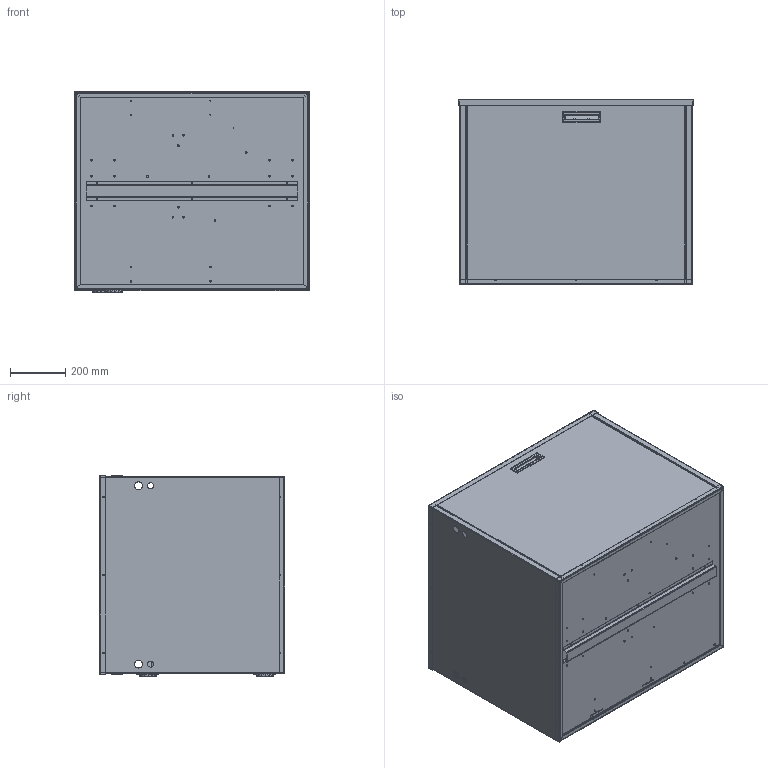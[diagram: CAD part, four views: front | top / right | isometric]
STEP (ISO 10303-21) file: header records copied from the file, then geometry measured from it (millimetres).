
FILE_DESCRIPTION (( 'STEP AP214' ), '1' );
FILE_NAME ('GW0361S1 - Copy.STEP', '2016-07-14T14:10:05', ( 'BMC' ), ( 'Bard Manufacturing Co., Inc.' ), 'SwSTEP 2.0', 'SolidWorks 2016', '' );
FILE_SCHEMA (( 'AUTOMOTIVE_DESIGN' ));
Length unit declared in the file: inch
Products named in the file (18): GW0361S1 - Copy; small threaded fitting; 112-469; 1171-060; 140-387; 5800-818-0306; 114-229; 2012-008-004; 126-438; 2012-008-005; 6094-012; Cap; plastic trim; threaded fitting; 2012-008-006; 2012-008-002; 114-228; 6031-012
Assembly tree (25 placements, depth 2):
  GW0361S1 - Copy
    small threaded fitting  x2
    112-469  x2
    1171-060  x2
    140-387
    5800-818-0306
    114-229
    2012-008-004
    126-438
    2012-008-005
    6094-012  x2
    Cap  x2
    plastic trim  x2
    threaded fitting  x2
    2012-008-006
    2012-008-002  x2
    114-228
    6031-012
Bounding box: 847.42 x 668.61 x 726.12 mm (x, y, z)
Surface area: 7469518.2 mm2 (no closed solid volume)
Topology: 0 solids, 25 shells, 2136 faces, 5214 edges, 3108 vertices
Faces by surface type: cylinder 874, plane 566, bspline 350, cone 339, torus 7
Entity records: 68564 total; most frequent: CARTESIAN_POINT 16361, DIRECTION 6962, ORIENTED_EDGE 6870, EDGE_CURVE 3435, AXIS2_PLACEMENT_3D 2714, VERTEX_POINT 2104, EDGE_LOOP 1761, VECTOR 1534
